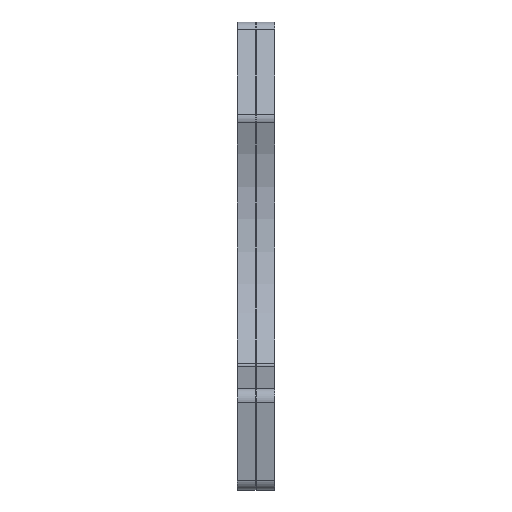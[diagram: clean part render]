
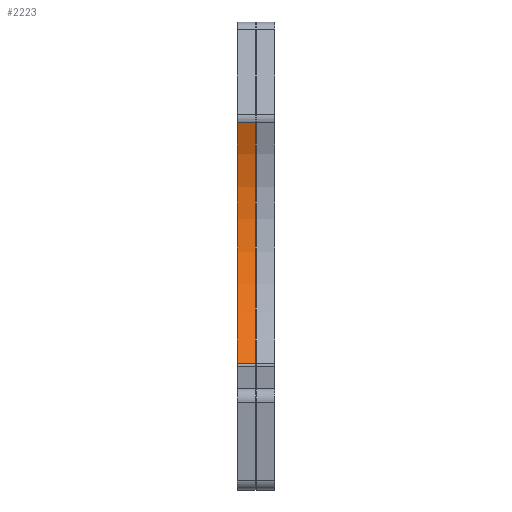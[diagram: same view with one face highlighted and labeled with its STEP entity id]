
A CAD part, left-side view. The second image highlights one B-rep face of the part: STEP entity #2223.
In plain terms, the highlighted cylindrical face has radius 179.249 mm (diameter 358.497 mm), a partial arc.
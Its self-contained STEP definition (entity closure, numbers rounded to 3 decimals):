
#44 = PLANE('',#45);
#45 = AXIS2_PLACEMENT_3D('',#46,#47,#48);
#46 = CARTESIAN_POINT('',(-91.694,0.,
    164.051));
#47 = DIRECTION('',(0.,1.,0.));
#48 = DIRECTION('',(-0.,0.,1.));
#99 = PLANE('',#100);
#100 = AXIS2_PLACEMENT_3D('',#101,#102,#103);
#101 = CARTESIAN_POINT('',(-91.694,16.,164.051));
#102 = DIRECTION('',(0.,1.,0.));
#103 = DIRECTION('',(-0.,0.,1.));
#423 = VERTEX_POINT('',#424);
#424 = CARTESIAN_POINT('',(-122.326,0.,
    311.602));
#443 = CYLINDRICAL_SURFACE('',#444,10.);
#444 = AXIS2_PLACEMENT_3D('',#445,#446,#447);
#445 = CARTESIAN_POINT('',(-113.121,0.,
    315.508));
#446 = DIRECTION('',(0.,1.,0.));
#447 = DIRECTION('',(-0.94,0.,0.342)
  );
#454 = EDGE_CURVE('',#455,#423,#457,.T.);
#455 = VERTEX_POINT('',#456);
#456 = CARTESIAN_POINT('',(-168.699,0.,
    107.208));
#457 = SURFACE_CURVE('',#458,(#463,#474),.PCURVE_S1.);
#458 = CIRCLE('',#459,179.248);
#459 = AXIS2_PLACEMENT_3D('',#460,#461,#462);
#460 = CARTESIAN_POINT('',(-287.333,0.,
    241.58));
#461 = DIRECTION('',(0.,-1.,0.));
#462 = DIRECTION('',(1.,0.,0.));
#463 = PCURVE('',#44,#464);
#464 = DEFINITIONAL_REPRESENTATION('',(#465),#473);
#465 = ( BOUNDED_CURVE() B_SPLINE_CURVE(2,(#466,#467,#468,#469,#470,#471
,#472),.UNSPECIFIED.,.F.,.F.) B_SPLINE_CURVE_WITH_KNOTS((1,2,2,2,2,1),(
    -2.094,0.,2.094,4.189,6.283,
8.378),.UNSPECIFIED.) CURVE() GEOMETRIC_REPRESENTATION_ITEM() 
RATIONAL_B_SPLINE_CURVE((1.,0.5,1.,0.5,1.,0.5,1.)) REPRESENTATION_ITEM(
  '') );
#466 = CARTESIAN_POINT('',(77.53,-16.39));
#467 = CARTESIAN_POINT('',(387.997,-16.39));
#468 = CARTESIAN_POINT('',(232.763,-285.263));
#469 = CARTESIAN_POINT('',(77.53,-554.135));
#470 = CARTESIAN_POINT('',(-77.704,-285.263));
#471 = CARTESIAN_POINT('',(-232.938,-16.39));
#472 = CARTESIAN_POINT('',(77.53,-16.39));
#473 = ( GEOMETRIC_REPRESENTATION_CONTEXT(2) 
PARAMETRIC_REPRESENTATION_CONTEXT() REPRESENTATION_CONTEXT('2D SPACE',''
  ) );
#474 = PCURVE('',#475,#480);
#475 = CYLINDRICAL_SURFACE('',#476,179.248);
#476 = AXIS2_PLACEMENT_3D('',#477,#478,#479);
#477 = CARTESIAN_POINT('',(-287.333,0.,
    241.58));
#478 = DIRECTION('',(0.,-1.,0.));
#479 = DIRECTION('',(1.,0.,0.));
#480 = DEFINITIONAL_REPRESENTATION('',(#481),#484);
#481 = B_SPLINE_CURVE_WITH_KNOTS('',1,(#482,#483),.UNSPECIFIED.,.F.,.F.,
  (2,2),(5.436,6.685),.PIECEWISE_BEZIER_KNOTS.);
#482 = CARTESIAN_POINT('',(5.436,0.));
#483 = CARTESIAN_POINT('',(6.685,0.));
#484 = ( GEOMETRIC_REPRESENTATION_CONTEXT(2) 
PARAMETRIC_REPRESENTATION_CONTEXT() REPRESENTATION_CONTEXT('2D SPACE',''
  ) );
#503 = CYLINDRICAL_SURFACE('',#504,10.);
#504 = AXIS2_PLACEMENT_3D('',#505,#506,#507);
#505 = CARTESIAN_POINT('',(-175.317,0.,
    114.704));
#506 = DIRECTION('',(0.,1.,0.));
#507 = DIRECTION('',(0.662,0.,-0.75)
  );
#1342 = VERTEX_POINT('',#1343);
#1343 = CARTESIAN_POINT('',(-122.326,16.,311.602));
#1368 = EDGE_CURVE('',#1369,#1342,#1371,.T.);
#1369 = VERTEX_POINT('',#1370);
#1370 = CARTESIAN_POINT('',(-168.699,16.,107.208));
#1371 = SURFACE_CURVE('',#1372,(#1377,#1388),.PCURVE_S1.);
#1372 = CIRCLE('',#1373,179.248);
#1373 = AXIS2_PLACEMENT_3D('',#1374,#1375,#1376);
#1374 = CARTESIAN_POINT('',(-287.333,16.,241.58));
#1375 = DIRECTION('',(0.,-1.,0.));
#1376 = DIRECTION('',(1.,0.,0.));
#1377 = PCURVE('',#99,#1378);
#1378 = DEFINITIONAL_REPRESENTATION('',(#1379),#1387);
#1379 = ( BOUNDED_CURVE() B_SPLINE_CURVE(2,(#1380,#1381,#1382,#1383,
#1384,#1385,#1386),.UNSPECIFIED.,.F.,.F.) B_SPLINE_CURVE_WITH_KNOTS((1,2
    ,2,2,2,1),(-2.094,0.,2.094,4.189,
6.283,8.378),.UNSPECIFIED.) CURVE() 
GEOMETRIC_REPRESENTATION_ITEM() RATIONAL_B_SPLINE_CURVE((1.,0.5,1.,0.5,
1.,0.5,1.)) REPRESENTATION_ITEM('') );
#1380 = CARTESIAN_POINT('',(77.53,-16.39));
#1381 = CARTESIAN_POINT('',(387.997,-16.39));
#1382 = CARTESIAN_POINT('',(232.763,-285.263));
#1383 = CARTESIAN_POINT('',(77.53,-554.135));
#1384 = CARTESIAN_POINT('',(-77.704,-285.263));
#1385 = CARTESIAN_POINT('',(-232.938,-16.39));
#1386 = CARTESIAN_POINT('',(77.53,-16.39));
#1387 = ( GEOMETRIC_REPRESENTATION_CONTEXT(2) 
PARAMETRIC_REPRESENTATION_CONTEXT() REPRESENTATION_CONTEXT('2D SPACE',''
  ) );
#1388 = PCURVE('',#475,#1389);
#1389 = DEFINITIONAL_REPRESENTATION('',(#1390),#1393);
#1390 = B_SPLINE_CURVE_WITH_KNOTS('',1,(#1391,#1392),.UNSPECIFIED.,.F.,
  .F.,(2,2),(5.436,6.685),.PIECEWISE_BEZIER_KNOTS.);
#1391 = CARTESIAN_POINT('',(5.436,-16.));
#1392 = CARTESIAN_POINT('',(6.685,-16.));
#1393 = ( GEOMETRIC_REPRESENTATION_CONTEXT(2) 
PARAMETRIC_REPRESENTATION_CONTEXT() REPRESENTATION_CONTEXT('2D SPACE',''
  ) );
#2179 = EDGE_CURVE('',#455,#1369,#2180,.T.);
#2180 = SURFACE_CURVE('',#2181,(#2185,#2191),.PCURVE_S1.);
#2181 = LINE('',#2182,#2183);
#2182 = CARTESIAN_POINT('',(-168.699,0.,
    107.208));
#2183 = VECTOR('',#2184,1.);
#2184 = DIRECTION('',(0.,1.,0.));
#2185 = PCURVE('',#503,#2186);
#2186 = DEFINITIONAL_REPRESENTATION('',(#2187),#2190);
#2187 = B_SPLINE_CURVE_WITH_KNOTS('',1,(#2188,#2189),.UNSPECIFIED.,.F.,
  .F.,(2,2),(0.,16.),.PIECEWISE_BEZIER_KNOTS.);
#2188 = CARTESIAN_POINT('',(0.,0.));
#2189 = CARTESIAN_POINT('',(0.,16.));
#2190 = ( GEOMETRIC_REPRESENTATION_CONTEXT(2) 
PARAMETRIC_REPRESENTATION_CONTEXT() REPRESENTATION_CONTEXT('2D SPACE',''
  ) );
#2191 = PCURVE('',#475,#2192);
#2192 = DEFINITIONAL_REPRESENTATION('',(#2193),#2196);
#2193 = B_SPLINE_CURVE_WITH_KNOTS('',1,(#2194,#2195),.UNSPECIFIED.,.F.,
  .F.,(2,2),(0.,16.),.PIECEWISE_BEZIER_KNOTS.);
#2194 = CARTESIAN_POINT('',(5.436,0.));
#2195 = CARTESIAN_POINT('',(5.436,-16.));
#2196 = ( GEOMETRIC_REPRESENTATION_CONTEXT(2) 
PARAMETRIC_REPRESENTATION_CONTEXT() REPRESENTATION_CONTEXT('2D SPACE',''
  ) );
#2223 = ADVANCED_FACE('',(#2224),#475,.F.);
#2224 = FACE_BOUND('',#2225,.F.);
#2225 = EDGE_LOOP('',(#2226,#2227,#2228,#2229));
#2226 = ORIENTED_EDGE('',*,*,#454,.F.);
#2227 = ORIENTED_EDGE('',*,*,#2179,.T.);
#2228 = ORIENTED_EDGE('',*,*,#1368,.T.);
#2229 = ORIENTED_EDGE('',*,*,#2230,.F.);
#2230 = EDGE_CURVE('',#423,#1342,#2231,.T.);
#2231 = SURFACE_CURVE('',#2232,(#2236,#2242),.PCURVE_S1.);
#2232 = LINE('',#2233,#2234);
#2233 = CARTESIAN_POINT('',(-122.326,0.,
    311.602));
#2234 = VECTOR('',#2235,1.);
#2235 = DIRECTION('',(0.,1.,0.));
#2236 = PCURVE('',#475,#2237);
#2237 = DEFINITIONAL_REPRESENTATION('',(#2238),#2241);
#2238 = B_SPLINE_CURVE_WITH_KNOTS('',1,(#2239,#2240),.UNSPECIFIED.,.F.,
  .F.,(2,2),(0.,16.),.PIECEWISE_BEZIER_KNOTS.);
#2239 = CARTESIAN_POINT('',(6.685,0.));
#2240 = CARTESIAN_POINT('',(6.685,-16.));
#2241 = ( GEOMETRIC_REPRESENTATION_CONTEXT(2) 
PARAMETRIC_REPRESENTATION_CONTEXT() REPRESENTATION_CONTEXT('2D SPACE',''
  ) );
#2242 = PCURVE('',#443,#2243);
#2243 = DEFINITIONAL_REPRESENTATION('',(#2244),#2247);
#2244 = B_SPLINE_CURVE_WITH_KNOTS('',1,(#2245,#2246),.UNSPECIFIED.,.F.,
  .F.,(2,2),(0.,16.),.PIECEWISE_BEZIER_KNOTS.);
#2245 = CARTESIAN_POINT('',(-0.75,0.));
#2246 = CARTESIAN_POINT('',(-0.75,16.));
#2247 = ( GEOMETRIC_REPRESENTATION_CONTEXT(2) 
PARAMETRIC_REPRESENTATION_CONTEXT() REPRESENTATION_CONTEXT('2D SPACE',''
  ) );
